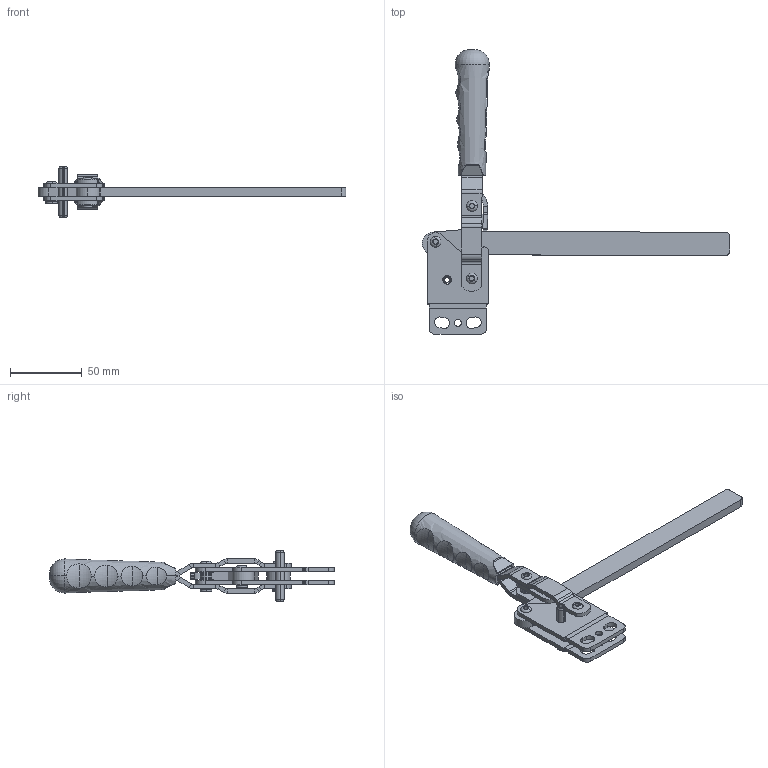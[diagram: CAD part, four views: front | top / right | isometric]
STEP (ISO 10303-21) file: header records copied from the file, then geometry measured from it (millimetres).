
FILE_DESCRIPTION (( 'STEP AP214' ), '1' );
FILE_NAME ('1103-D-L.STEP', '2022-05-31T12:44:46', ( '' ), ( '' ), 'SwSTEP 2.0', 'SolidWorks 2020', '' );
FILE_SCHEMA (( 'AUTOMOTIVE_DESIGN' ));
Length unit declared in the file: millimetre
Products named in the file (14): 1103 L-3; 8x5x12_BURÇ; 1103-D-L; 1103 HAREKET KOLU_2022; 1103_DESTEK_YÜZÜÐÜ; 1103_Y_FN; 8x5x6_BURÇ; 1103 MAFSAL_2022; 6x36_YARIKLI_P嵱; C90_Yeni_Tutamak; Aynalama1103_Y_FN; Aynalama1103 HAREKET KOLU_2022; 5x22_PERﾇﾝN; 5x17_PERﾇﾝN
Assembly tree (17 placements, depth 2):
  1103-D-L
    1103 HAREKET KOLU_2022
    1103 MAFSAL_2022
    8x5x12_BURÇ  x2
    8x5x6_BURÇ  x2
    5x22_PERﾇﾝN  x2
    5x17_PERﾇﾝN  x2
    6x36_YARIKLI_P嵱
    1103_DESTEK_YÜZÜÐÜ
    1103_Y_FN
    Aynalama1103_Y_FN
    Aynalama1103 HAREKET KOLU_2022
    C90_Yeni_Tutamak
    1103 L-3
Bounding box: 215.13 x 198.79 x 36 mm (x, y, z)
Volume: 78033.5 mm3; surface area: 51251.6 mm2
Topology: 17 solids, 17 shells, 1056 faces, 2626 edges, 1669 vertices
Faces by surface type: plane 711, cylinder 232, cone 40, torus 36, bspline 33, sphere 4
Entity records: 26276 total; most frequent: CARTESIAN_POINT 6392, ORIENTED_EDGE 3980, DIRECTION 3970, EDGE_CURVE 1990, VECTOR 1336, LINE 1336, AXIS2_PLACEMENT_3D 1317, VERTEX_POINT 1261
